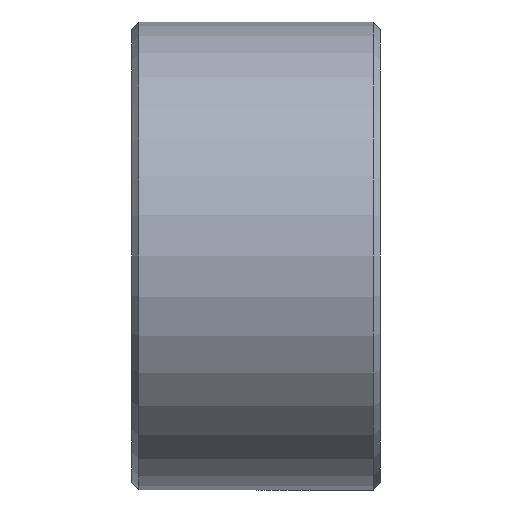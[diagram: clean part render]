
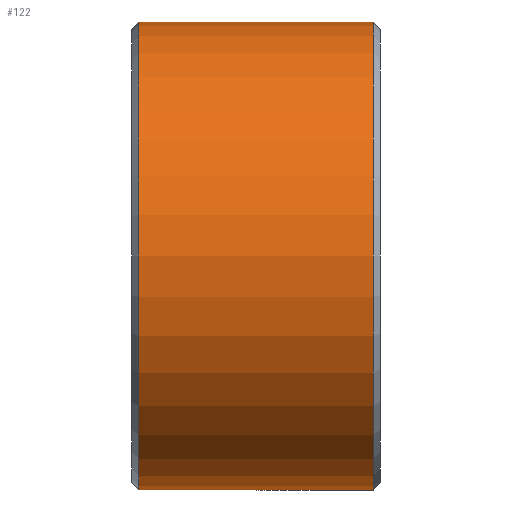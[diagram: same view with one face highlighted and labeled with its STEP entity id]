
A CAD part, front view. The second image highlights one B-rep face of the part: STEP entity #122.
In plain terms, the highlighted cylindrical face has radius 8 mm (diameter 16 mm), a partial arc.
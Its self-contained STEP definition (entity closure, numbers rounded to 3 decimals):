
#15 = DIRECTION ( 'NONE',  ( 0., 0., 1. ) ) ;
#16 = CARTESIAN_POINT ( 'NONE',  ( 0., 0., -8. ) ) ;
#18 = EDGE_CURVE ( 'NONE', #262, #120, #32, .T. ) ;
#32 = LINE ( 'NONE', #16, #97 ) ;
#41 = EDGE_LOOP ( 'NONE', ( #288, #171, #208, #236 ) ) ;
#44 = DIRECTION ( 'NONE',  ( 0., 0., 1. ) ) ;
#48 = CARTESIAN_POINT ( 'NONE',  ( 0.25, 0., 0. ) ) ;
#54 = EDGE_CURVE ( 'NONE', #189, #194, #268, .T. ) ;
#66 = CARTESIAN_POINT ( 'NONE',  ( 8.25, 0., -8. ) ) ;
#77 = DIRECTION ( 'NONE',  ( -1., 0., 0. ) ) ;
#97 = VECTOR ( 'NONE', #265, 1000. ) ;
#99 = EDGE_CURVE ( 'NONE', #120, #194, #201, .T. ) ;
#120 = VERTEX_POINT ( 'NONE', #129 ) ;
#122 = ADVANCED_FACE ( 'NONE', ( #270 ), #161, .T. ) ;
#129 = CARTESIAN_POINT ( 'NONE',  ( 0.25, 0., -8. ) ) ;
#143 = CARTESIAN_POINT ( 'NONE',  ( 0., 0., 8. ) ) ;
#147 = AXIS2_PLACEMENT_3D ( 'NONE', #151, #222, #313 ) ;
#151 = CARTESIAN_POINT ( 'NONE',  ( 0., 0., 0. ) ) ;
#157 = CARTESIAN_POINT ( 'NONE',  ( 8.25, 0., 0. ) ) ;
#161 = CYLINDRICAL_SURFACE ( 'NONE', #147, 8. ) ;
#171 = ORIENTED_EDGE ( 'NONE', *, *, #178, .T. ) ;
#178 = EDGE_CURVE ( 'NONE', #262, #189, #251, .T. ) ;
#186 = CARTESIAN_POINT ( 'NONE',  ( 0.25, 0., 8. ) ) ;
#189 = VERTEX_POINT ( 'NONE', #298 ) ;
#194 = VERTEX_POINT ( 'NONE', #186 ) ;
#201 = CIRCLE ( 'NONE', #204, 8. ) ;
#204 = AXIS2_PLACEMENT_3D ( 'NONE', #48, #77, #15 ) ;
#208 = ORIENTED_EDGE ( 'NONE', *, *, #54, .T. ) ;
#222 = DIRECTION ( 'NONE',  ( -1., 0., 0. ) ) ;
#236 = ORIENTED_EDGE ( 'NONE', *, *, #99, .F. ) ;
#238 = AXIS2_PLACEMENT_3D ( 'NONE', #157, #291, #44 ) ;
#251 = CIRCLE ( 'NONE', #238, 8. ) ;
#262 = VERTEX_POINT ( 'NONE', #66 ) ;
#265 = DIRECTION ( 'NONE',  ( -1., 0., 0. ) ) ;
#268 = LINE ( 'NONE', #143, #310 ) ;
#270 = FACE_OUTER_BOUND ( 'NONE', #41, .T. ) ;
#288 = ORIENTED_EDGE ( 'NONE', *, *, #18, .F. ) ;
#291 = DIRECTION ( 'NONE',  ( -1., 0., 0. ) ) ;
#298 = CARTESIAN_POINT ( 'NONE',  ( 8.25, 0., 8. ) ) ;
#310 = VECTOR ( 'NONE', #343, 1000. ) ;
#313 = DIRECTION ( 'NONE',  ( 0., 0., 1. ) ) ;
#343 = DIRECTION ( 'NONE',  ( -1., 0., 0. ) ) ;
